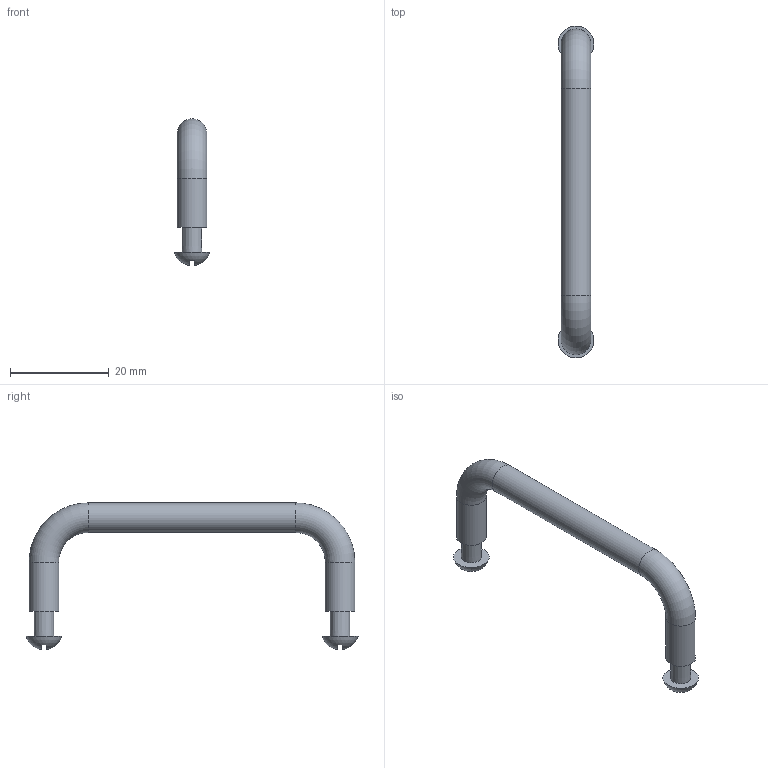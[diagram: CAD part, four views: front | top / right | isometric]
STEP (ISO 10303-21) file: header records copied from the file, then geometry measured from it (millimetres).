
FILE_DESCRIPTION(('STEP AP214'),'1');
FILE_NAME('HAB1A.stp','2022-01-10T06:24:47',(' '),(' '),'Spatial InterOp 3D',' ',' ');
FILE_SCHEMA(('AUTOMOTIVE_DESIGN { 1 0 10303 214 1 1 1 1 }'));
Length unit declared in the file: millimetre
Products named in the file (4): HAB1A; ねじ: 丸頭 - M4.0 x 8.0
Assembly tree (3 placements, depth 2):
  HAB1A
    HAB1A
    ねじ: 丸頭 - M4.0 x 8.0
    ねじ: 丸頭 - M4.0 x 8.0
Bounding box: 7.26 x 67.26 x 29.64 mm (x, y, z)
Volume: 2676.2 mm3; surface area: 2419.7 mm2
Topology: 3 solids, 3 shells, 85 faces, 205 edges, 130 vertices
Faces by surface type: plane 66, cylinder 13, torus 2, sphere 2, cone 2
Full cylindrical faces by diameter (mm): 4 x2, 6 x3
Entity records: 3195 total; most frequent: CARTESIAN_POINT 481, DIRECTION 410, ORIENTED_EDGE 384, EDGE_CURVE 192, AXIS2_PLACEMENT_3D 137, LINE 136, VECTOR 136, VERTEX_POINT 128
